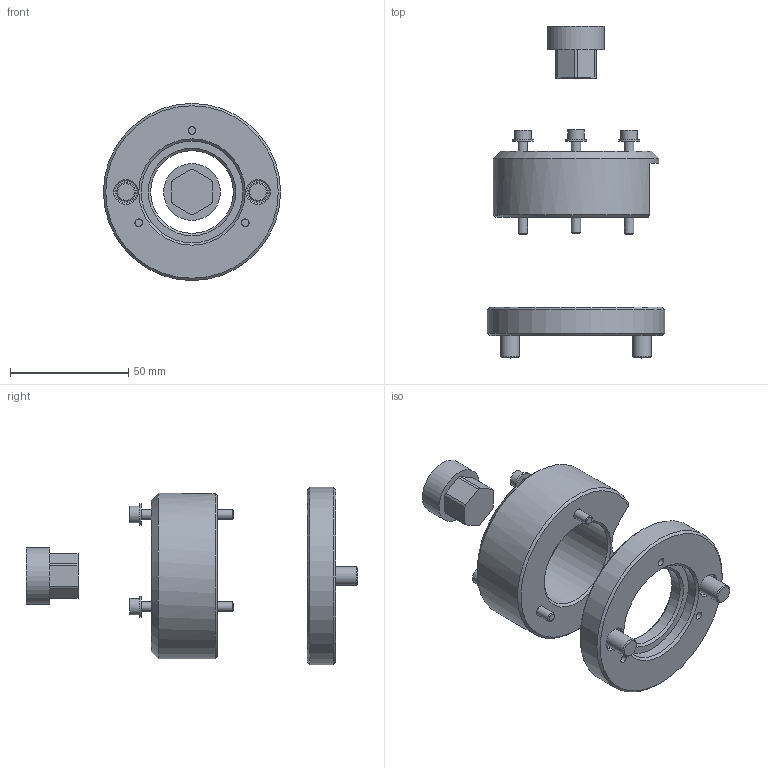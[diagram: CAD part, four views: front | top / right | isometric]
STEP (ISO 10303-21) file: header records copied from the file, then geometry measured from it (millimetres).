
FILE_DESCRIPTION( ( 'STEP AP203' ), ' ' );
FILE_NAME( 'p:/temp/worker_77/3860_5020/app_55_02018041611480435424309192d056f_000000_00_00_000000/format_6/E12515.stp', '2018-04-16T09:48:06', ( '' ), ( '' ), ' ', 'PARTsolutions', ' ' );
FILE_SCHEMA( ( 'CONFIG_CONTROL_DESIGN' ) );
Length unit declared in the file: millimetre
Products named in the file (4): E12515; _E12515_P1; _E12515_p2; _E12515_P3
Assembly tree (3 placements, depth 2):
  E12515
    _E12515_P1
    _E12515_p2
    _E12515_P3
Bounding box: 75 x 140.5 x 75 mm (x, y, z)
Volume: 114553 mm3; surface area: 33279.4 mm2
Topology: 3 solids, 3 shells, 140 faces, 290 edges, 189 vertices
Faces by surface type: plane 79, cylinder 43, cone 18
Full cylindrical faces by diameter (mm): 3.3 x3, 4 x6, 4.5 x6, 7 x3, 8 x2, 9 x3, 9.4 x2, 13 x2, 14 x2, 24 x1, 35 x1, 38 x1, 43 x1, 70 x1, 75 x1
Entity records: 3569 total; most frequent: DIRECTION 624, CARTESIAN_POINT 567, ORIENTED_EDGE 466, AXIS2_PLACEMENT_3D 249, EDGE_LOOP 235, EDGE_CURVE 233, VERTEX_POINT 184, FACE_OUTER_BOUND 175
